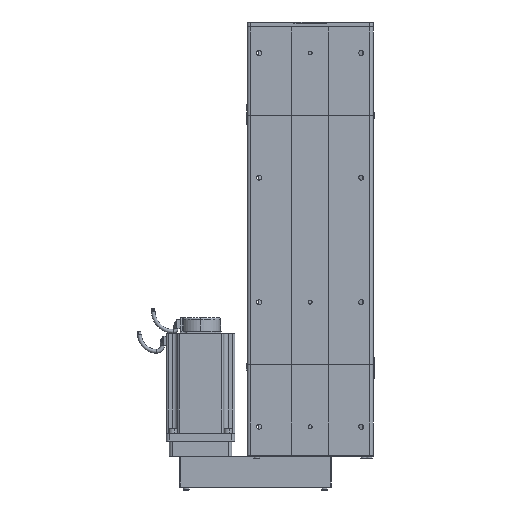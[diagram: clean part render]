
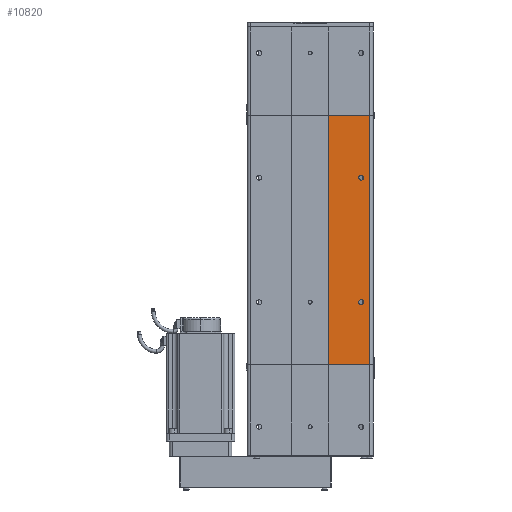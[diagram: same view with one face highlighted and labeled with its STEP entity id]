
A CAD part, front view. The second image highlights one B-rep face of the part: STEP entity #10820.
In plain terms, the highlighted planar face has unit normal (0, -1, 0).
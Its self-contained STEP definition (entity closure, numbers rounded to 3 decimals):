
#10635 = EDGE_CURVE ( 'NONE', #11143, #11141, #18711, .T. ) ;
#10640 = EDGE_CURVE ( 'NONE', #37246, #37254, #18767, .T. ) ;
#10641 = EDGE_CURVE ( 'NONE', #10642, #11143, #18749, .T. ) ;
#10642 = VERTEX_POINT ( 'NONE', #18713 ) ;
#10791 = EDGE_CURVE ( 'NONE', #38779, #36498, #19029, .T. ) ;
#10807 = EDGE_LOOP ( 'NONE', ( #10815, #11144 ) ) ;
#10815 = ORIENTED_EDGE ( 'NONE', *, *, #10791, .F. ) ;
#10820 = ADVANCED_FACE ( 'NONE', ( #19014, #19049, #19081 ), #19024, .F. ) ;
#10973 = ORIENTED_EDGE ( 'NONE', *, *, #37245, .F. ) ;
#10976 = ORIENTED_EDGE ( 'NONE', *, *, #11048, .T. ) ;
#11047 = ORIENTED_EDGE ( 'NONE', *, *, #10641, .F. ) ;
#11048 = EDGE_CURVE ( 'NONE', #10642, #11050, #19818, .T. ) ;
#11050 = VERTEX_POINT ( 'NONE', #19809 ) ;
#11140 = ORIENTED_EDGE ( 'NONE', *, *, #10635, .F. ) ;
#11141 = VERTEX_POINT ( 'NONE', #19832 ) ;
#11142 = EDGE_CURVE ( 'NONE', #11141, #11050, #19830, .T. ) ;
#11143 = VERTEX_POINT ( 'NONE', #19995 ) ;
#11144 = ORIENTED_EDGE ( 'NONE', *, *, #38778, .F. ) ;
#11145 = EDGE_LOOP ( 'NONE', ( #11153, #10973 ) ) ;
#11153 = ORIENTED_EDGE ( 'NONE', *, *, #10640, .F. ) ;
#11154 = ORIENTED_EDGE ( 'NONE', *, *, #11142, .F. ) ;
#11155 = EDGE_LOOP ( 'NONE', ( #11140, #11047, #10976, #11154 ) ) ;
#18652 = VECTOR ( 'NONE', #18720, 1000. ) ;
#18653 = AXIS2_PLACEMENT_3D ( 'NONE', #18765, #18780, #18805 ) ;
#18710 = CARTESIAN_POINT ( 'NONE',  ( -96., -34.5, 400. ) ) ;
#18711 = LINE ( 'NONE', #18710, #18652 ) ;
#18713 = CARTESIAN_POINT ( 'NONE',  ( 30., -34.5, 0. ) ) ;
#18720 = DIRECTION ( 'NONE',  ( 1., 0., 0. ) ) ;
#18745 = DIRECTION ( 'NONE',  ( 0., 0., 1. ) ) ;
#18746 = VECTOR ( 'NONE', #18745, 1000. ) ;
#18749 = LINE ( 'NONE', #18781, #18746 ) ;
#18765 = CARTESIAN_POINT ( 'NONE',  ( 82., -34.5, 100. ) ) ;
#18767 = CIRCLE ( 'NONE', #18653, 4. ) ;
#18780 = DIRECTION ( 'NONE',  ( 0., -1., 0. ) ) ;
#18781 = CARTESIAN_POINT ( 'NONE',  ( 30., -34.5, 0. ) ) ;
#18805 = DIRECTION ( 'NONE',  ( 1., 0., 0. ) ) ;
#19014 = FACE_BOUND ( 'NONE', #10807, .T. ) ;
#19024 = PLANE ( 'NONE',  #19154 ) ;
#19026 = DIRECTION ( 'NONE',  ( 1., 0., 0. ) ) ;
#19027 = DIRECTION ( 'NONE',  ( 0., -1., 0. ) ) ;
#19029 = CIRCLE ( 'NONE', #19055, 4. ) ;
#19049 = FACE_BOUND ( 'NONE', #11145, .T. ) ;
#19054 = CARTESIAN_POINT ( 'NONE',  ( 82., -34.5, 300. ) ) ;
#19055 = AXIS2_PLACEMENT_3D ( 'NONE', #19054, #19027, #19026 ) ;
#19081 = FACE_OUTER_BOUND ( 'NONE', #11155, .T. ) ;
#19147 = DIRECTION ( 'NONE',  ( -1., 0., 0. ) ) ;
#19148 = DIRECTION ( 'NONE',  ( 0., 1., 0. ) ) ;
#19154 = AXIS2_PLACEMENT_3D ( 'NONE', #19155, #19148, #19147 ) ;
#19155 = CARTESIAN_POINT ( 'NONE',  ( -96., -34.5, 400. ) ) ;
#19693 = VECTOR ( 'NONE', #19816, 1000. ) ;
#19809 = CARTESIAN_POINT ( 'NONE',  ( 96., -34.5, 0. ) ) ;
#19816 = DIRECTION ( 'NONE',  ( 1., 0., 0. ) ) ;
#19817 = CARTESIAN_POINT ( 'NONE',  ( -96., -34.5, 0. ) ) ;
#19818 = LINE ( 'NONE', #19817, #19693 ) ;
#19830 = LINE ( 'NONE', #20044, #20043 ) ;
#19832 = CARTESIAN_POINT ( 'NONE',  ( 96., -34.5, 400. ) ) ;
#19995 = CARTESIAN_POINT ( 'NONE',  ( 30., -34.5, 400. ) ) ;
#20042 = DIRECTION ( 'NONE',  ( 0., 0., -1. ) ) ;
#20043 = VECTOR ( 'NONE', #20042, 1000. ) ;
#20044 = CARTESIAN_POINT ( 'NONE',  ( 96., -34.5, 400. ) ) ;
#36498 = VERTEX_POINT ( 'NONE', #70781 ) ;
#37245 = EDGE_CURVE ( 'NONE', #37254, #37246, #72910, .T. ) ;
#37246 = VERTEX_POINT ( 'NONE', #72832 ) ;
#37254 = VERTEX_POINT ( 'NONE', #72858 ) ;
#38778 = EDGE_CURVE ( 'NONE', #36498, #38779, #65769, .T. ) ;
#38779 = VERTEX_POINT ( 'NONE', #65461 ) ;
#65461 = CARTESIAN_POINT ( 'NONE',  ( 86., -34.5, 300. ) ) ;
#65766 = DIRECTION ( 'NONE',  ( 1., 0., 0. ) ) ;
#65767 = DIRECTION ( 'NONE',  ( 0., -1., 0. ) ) ;
#65768 = AXIS2_PLACEMENT_3D ( 'NONE', #65771, #65767, #65766 ) ;
#65769 = CIRCLE ( 'NONE', #65768, 4. ) ;
#65771 = CARTESIAN_POINT ( 'NONE',  ( 82., -34.5, 300. ) ) ;
#70781 = CARTESIAN_POINT ( 'NONE',  ( 78., -34.5, 300. ) ) ;
#72832 = CARTESIAN_POINT ( 'NONE',  ( 86., -34.5, 100. ) ) ;
#72858 = CARTESIAN_POINT ( 'NONE',  ( 78., -34.5, 100. ) ) ;
#72909 = CARTESIAN_POINT ( 'NONE',  ( 82., -34.5, 100. ) ) ;
#72910 = CIRCLE ( 'NONE', #72956, 4. ) ;
#72954 = DIRECTION ( 'NONE',  ( 1., 0., 0. ) ) ;
#72955 = DIRECTION ( 'NONE',  ( 0., -1., 0. ) ) ;
#72956 = AXIS2_PLACEMENT_3D ( 'NONE', #72909, #72955, #72954 ) ;
